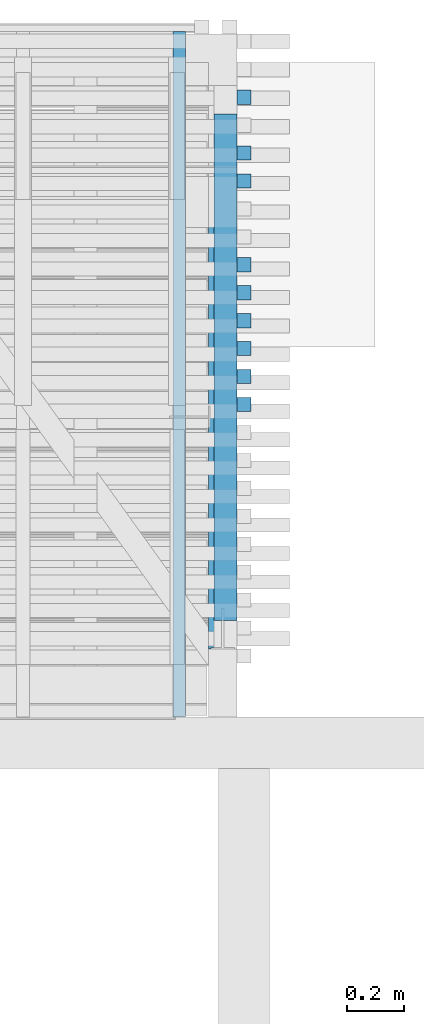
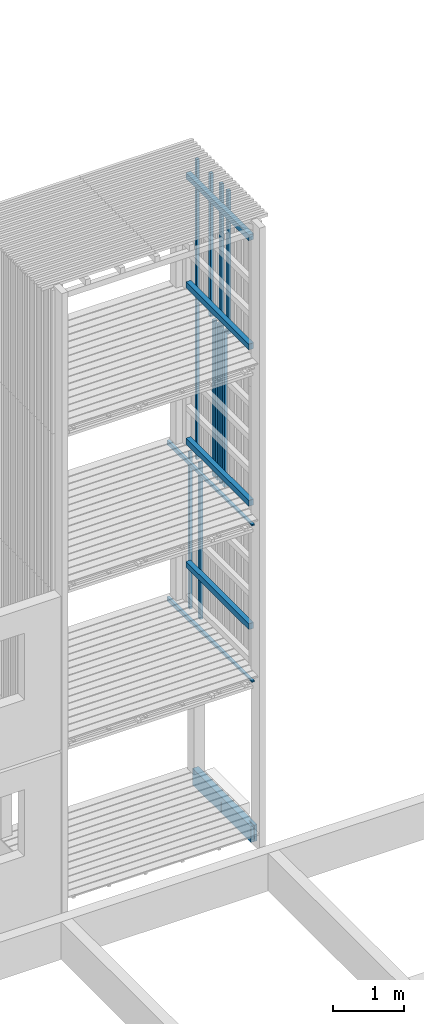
# One storey, part 81 of 182: 18 beams.
"""IFC2X3 building model written with IfcOpenShell, lengths in metres."""

from ifc_helpers import new_model, si_unit, frame, origin, place, context, project, spatial, faceted_brep, element, save


model = new_model("IFC2X3")

# Units and contexts
model_context = context("Model", 3, precision=1e-06, world=origin())
ifc_project = project(units=[si_unit("LENGTHUNIT", "METRE"), si_unit("PLANEANGLEUNIT", "RADIAN")], contexts=[model_context])

# Site, building, storey
site = spatial("IfcSite", under=ifc_project, CompositionType="ELEMENT")
building = spatial("IfcBuilding", under=site, CompositionType="ELEMENT")
storey = spatial("IfcBuildingStorey", under=building, Name="vs", CompositionType="ELEMENT", Elevation=-0.85)

# Beams
placement = place(None, origin())
beam_1_placement = place(placement, frame((26.399999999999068, 12.648714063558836, 2.575000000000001), z_axis=(-1.0, 0.0, 0.0), x_axis=(0.0, 0.0, 1.0)))
element("IfcBeam", 1, at=beam_1_placement, inside=storey, Name="Bardage", context=model_context, shape_type="Brep", body=[
    faceted_brep([(0.0, -0.025000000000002, 0.024999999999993), (0.0, 0.024999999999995, 0.024999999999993), (0.0, 0.024999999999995, -0.025000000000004), (0.0, -0.025000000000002, -0.025000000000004), (2.699961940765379, 0.024999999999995, -0.025000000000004), (2.699961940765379, 0.024999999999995, 0.024999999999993), (2.699961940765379, -0.025000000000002, 0.024999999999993), (2.699961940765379, -0.025000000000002, -0.025000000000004), (0.0, -0.025000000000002, -0.025000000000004), (0.0, 0.024999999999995, -0.025000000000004), (2.699961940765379, 0.024999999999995, -0.025000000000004), (2.699961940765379, -0.025000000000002, -0.025000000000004), (2.699961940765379, 0.024999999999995, -0.025000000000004), (0.0, 0.024999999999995, -0.025000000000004), (0.0, 0.024999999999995, 0.024999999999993), (2.699961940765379, 0.024999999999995, 0.024999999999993), (2.699961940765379, 0.024999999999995, 0.024999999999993), (0.0, 0.024999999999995, 0.024999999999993), (0.0, -0.025000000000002, 0.024999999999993), (2.699961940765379, -0.025000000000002, 0.024999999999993), (2.699961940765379, -0.025000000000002, 0.024999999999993), (0.0, -0.025000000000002, 0.024999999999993), (0.0, -0.025000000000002, -0.025000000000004), (2.699961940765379, -0.025000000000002, -0.025000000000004)], [[[0, 1, 2, 3]], [[4, 5, 6, 7]], [[8, 9, 10, 11]], [[12, 13, 14, 15]], [[16, 17, 18, 19]], [[20, 21, 22, 23]]]),
])
beam_2_placement = place(placement, frame((26.399999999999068, 12.452350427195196, 7.974999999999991), z_axis=(-1.0, 0.0, 0.0), x_axis=(0.0, 0.0, 1.0)))
element("IfcBeam", 2, at=beam_2_placement, inside=storey, Name="Bardage", context=model_context, shape_type="Brep", body=[
    faceted_brep([(2.479999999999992, -0.024999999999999, 0.024999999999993), (2.479999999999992, -0.024999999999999, -0.025000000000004), (2.479999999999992, 0.025000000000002, -0.025000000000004), (2.479999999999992, 0.025000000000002, 0.024999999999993), (0.0, 0.025000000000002, 0.024999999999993), (0.0, -0.024999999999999, 0.024999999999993), (2.479999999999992, -0.024999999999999, 0.024999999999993), (2.479999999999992, 0.025000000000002, 0.024999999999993), (0.0, -0.024999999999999, 0.024999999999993), (0.0, 0.025000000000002, 0.024999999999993), (0.0, 0.025000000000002, -0.025000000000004), (0.0, -0.024999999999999, -0.025000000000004), (0.0, 0.025000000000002, -0.025000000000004), (0.0, 0.025000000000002, 0.024999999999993), (2.479999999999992, 0.025000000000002, 0.024999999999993), (2.479999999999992, 0.025000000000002, -0.025000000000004), (0.0, -0.024999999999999, -0.025000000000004), (0.0, 0.025000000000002, -0.025000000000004), (2.479999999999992, 0.025000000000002, -0.025000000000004), (2.479999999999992, -0.024999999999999, -0.025000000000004), (2.479999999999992, -0.024999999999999, 0.024999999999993), (0.0, -0.024999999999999, 0.024999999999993), (0.0, -0.024999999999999, -0.025000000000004), (2.479999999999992, -0.024999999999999, -0.025000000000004)], [[[0, 1, 2, 3]], [[4, 5, 6, 7]], [[8, 9, 10, 11]], [[12, 13, 14, 15]], [[16, 17, 18, 19]], [[20, 21, 22, 23]]]),
])
beam_3_placement = place(placement, frame((26.334999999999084, 10.8100776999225, 10.114999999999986), z_axis=(0.0, 0.0, 1.0), x_axis=(0.0, 1.0, 0.0)))
element("IfcBeam", 3, at=beam_3_placement, inside=storey, Name="Support bardage", context=model_context, shape_type="Brep", body=[
    faceted_brep([(1.779999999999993, -0.039999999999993, 0.050000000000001), (1.779999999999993, -0.039999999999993, -0.050000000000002), (1.779999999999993, 0.04000000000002, -0.050000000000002), (1.779999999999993, 0.04000000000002, 0.050000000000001), (-4e-15, -0.039999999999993, -0.050000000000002), (1.779999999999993, -0.039999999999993, -0.050000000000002), (1.779999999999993, -0.039999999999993, 0.050000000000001), (-4e-15, -0.039999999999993, 0.050000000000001), (-4e-15, 0.04000000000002, -0.050000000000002), (1.779999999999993, 0.04000000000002, -0.050000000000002), (1.779999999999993, -0.039999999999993, -0.050000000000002), (-4e-15, -0.039999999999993, -0.050000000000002), (-4e-15, 0.04000000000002, 0.050000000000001), (1.779999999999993, 0.04000000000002, 0.050000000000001), (1.779999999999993, 0.04000000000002, -0.050000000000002), (-4e-15, 0.04000000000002, -0.050000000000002), (-4e-15, -0.039999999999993, 0.050000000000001), (1.779999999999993, -0.039999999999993, 0.050000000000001), (1.779999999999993, 0.04000000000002, 0.050000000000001), (-4e-15, 0.04000000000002, 0.050000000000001), (-4e-15, -0.039999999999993, -0.050000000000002), (-4e-15, -0.039999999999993, 0.050000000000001), (-4e-15, 0.04000000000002, 0.050000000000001), (-4e-15, 0.04000000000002, -0.050000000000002)], [[[0, 1, 2, 3]], [[4, 5, 6, 7]], [[8, 9, 10, 11]], [[12, 13, 14, 15]], [[16, 17, 18, 19]], [[20, 21, 22, 23]]]),
])
beam_4_placement = place(placement, frame((26.334999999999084, 10.8100776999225, 5.529999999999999), z_axis=(0.0, 0.0, 1.0), x_axis=(0.0, 1.0, 0.0)))
element("IfcBeam", 4, at=beam_4_placement, inside=storey, Name="Support bardage", context=model_context, shape_type="Brep", body=[
    faceted_brep([(1.779999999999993, -0.039999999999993, 0.05), (1.779999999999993, -0.039999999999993, -0.050000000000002), (1.779999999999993, 0.04000000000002, -0.050000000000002), (1.779999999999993, 0.04000000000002, 0.05), (-4e-15, -0.039999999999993, -0.050000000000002), (1.779999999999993, -0.039999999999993, -0.050000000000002), (1.779999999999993, -0.039999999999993, 0.05), (-4e-15, -0.039999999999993, 0.05), (-4e-15, 0.04000000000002, -0.050000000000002), (1.779999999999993, 0.04000000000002, -0.050000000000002), (1.779999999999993, -0.039999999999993, -0.050000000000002), (-4e-15, -0.039999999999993, -0.050000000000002), (-4e-15, 0.04000000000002, 0.05), (1.779999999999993, 0.04000000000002, 0.05), (1.779999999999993, 0.04000000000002, -0.050000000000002), (-4e-15, 0.04000000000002, -0.050000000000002), (-4e-15, -0.039999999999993, 0.05), (1.779999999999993, -0.039999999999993, 0.05), (1.779999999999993, 0.04000000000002, 0.05), (-4e-15, 0.04000000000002, 0.05), (-4e-15, -0.039999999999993, -0.050000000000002), (-4e-15, -0.039999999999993, 0.05), (-4e-15, 0.04000000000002, 0.05), (-4e-15, 0.04000000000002, -0.050000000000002)], [[[0, 1, 2, 3]], [[4, 5, 6, 7]], [[8, 9, 10, 11]], [[12, 13, 14, 15]], [[16, 17, 18, 19]], [[20, 21, 22, 23]]]),
])
beam_5_placement = place(placement, frame((26.172499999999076, 10.470077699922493, 2.684400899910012), z_axis=(0.0, 0.0, 1.0), x_axis=(0.0, 1.0, 0.0)))
element("IfcBeam", 5, at=beam_5_placement, inside=storey, Name="Calage", context=model_context, shape_type="Brep", body=[
    faceted_brep([(2.410000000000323, -0.022499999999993, -0.035599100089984), (0.0, -0.022499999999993, 0.012600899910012), (0.0, 0.022500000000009, 0.012600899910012), (2.410000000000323, 0.022500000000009, -0.035599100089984), (0.0, 0.022500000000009, 0.035599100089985), (0.0, 0.022500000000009, 0.012600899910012), (0.0, -0.022499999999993, 0.012600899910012), (0.0, -0.022499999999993, 0.035599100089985), (2.410000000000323, 0.022500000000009, -0.035599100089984), (0.0, 0.022500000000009, 0.012600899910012), (0.0, 0.022500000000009, 0.035599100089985), (2.410000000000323, 0.022500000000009, 0.035599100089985), (2.410000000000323, -0.022499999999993, 0.035599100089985), (0.0, -0.022499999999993, 0.035599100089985), (0.0, -0.022499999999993, 0.012600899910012), (2.410000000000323, -0.022499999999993, -0.035599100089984), (2.410000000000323, 0.022500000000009, 0.035599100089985), (0.0, 0.022500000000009, 0.035599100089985), (0.0, -0.022499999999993, 0.035599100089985), (2.410000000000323, -0.022499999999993, 0.035599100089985), (2.410000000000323, 0.022500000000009, -0.035599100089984), (2.410000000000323, 0.022500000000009, 0.035599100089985), (2.410000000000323, -0.022499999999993, 0.035599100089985), (2.410000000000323, -0.022499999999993, -0.035599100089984)], [[[0, 1, 2, 3]], [[4, 5, 6, 7]], [[8, 9, 10, 11]], [[12, 13, 14, 15]], [[16, 17, 18, 19]], [[20, 21, 22, 23]]]),
])
beam_6_placement = place(placement, frame((26.399999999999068, 12.452350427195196, 5.274999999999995), z_axis=(-1.0, 0.0, 0.0), x_axis=(0.0, 0.0, 1.0)))
element("IfcBeam", 6, at=beam_6_placement, inside=storey, Name="Bardage", context=model_context, shape_type="Brep", body=[
    faceted_brep([(1e-15, -0.024999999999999, 0.024999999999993), (1e-15, 0.025000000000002, 0.024999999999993), (1e-15, 0.025000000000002, -0.025000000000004), (1e-15, -0.024999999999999, -0.025000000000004), (2.699999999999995, -0.024999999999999, -0.025000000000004), (2.699999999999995, 0.025000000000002, -0.025000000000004), (2.699999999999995, 0.025000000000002, 0.024999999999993), (2.699999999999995, -0.024999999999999, 0.024999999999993), (1e-15, -0.024999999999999, 0.024999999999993), (1e-15, -0.024999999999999, -0.025000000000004), (2.699999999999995, -0.024999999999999, -0.025000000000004), (2.699999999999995, -0.024999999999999, 0.024999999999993), (2.699999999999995, -0.024999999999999, -0.025000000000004), (1e-15, -0.024999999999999, -0.025000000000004), (1e-15, 0.025000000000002, -0.025000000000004), (2.699999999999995, 0.025000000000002, -0.025000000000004), (2.699999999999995, 0.025000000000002, -0.025000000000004), (1e-15, 0.025000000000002, -0.025000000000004), (1e-15, 0.025000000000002, 0.024999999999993), (2.699999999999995, 0.025000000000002, 0.024999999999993), (2.699999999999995, 0.025000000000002, 0.024999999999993), (1e-15, 0.025000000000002, 0.024999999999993), (1e-15, -0.024999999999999, 0.024999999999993), (2.699999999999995, -0.024999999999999, 0.024999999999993)], [[[0, 1, 2, 3]], [[4, 5, 6, 7]], [[8, 9, 10, 11]], [[12, 13, 14, 15]], [[16, 17, 18, 19]], [[20, 21, 22, 23]]]),
])
beam_7_placement = place(placement, frame((26.399999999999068, 11.765077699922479, 7.974999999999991), z_axis=(-1.0, 0.0, 0.0), x_axis=(0.0, 1e-15, 1.0)))
element("IfcBeam", 7, at=beam_7_placement, inside=storey, Name="Bardage", context=model_context, shape_type="Brep", body=[
    faceted_brep([(2.479999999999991, -0.025000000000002, 0.024999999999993), (2.479999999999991, -0.025000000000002, -0.025000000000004), (2.479999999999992, 0.024999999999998, -0.025000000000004), (2.479999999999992, 0.024999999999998, 0.024999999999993), (0.0, 0.025000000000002, 0.024999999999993), (0.0, -0.024999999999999, 0.024999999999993), (2.479999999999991, -0.025000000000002, 0.024999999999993), (2.479999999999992, 0.024999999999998, 0.024999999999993), (0.0, -0.024999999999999, 0.024999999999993), (0.0, 0.025000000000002, 0.024999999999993), (0.0, 0.025000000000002, -0.025000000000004), (0.0, -0.024999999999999, -0.025000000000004), (0.0, 0.025000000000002, -0.025000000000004), (0.0, 0.025000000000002, 0.024999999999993), (2.479999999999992, 0.024999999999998, 0.024999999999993), (2.479999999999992, 0.024999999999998, -0.025000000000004), (0.0, -0.024999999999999, -0.025000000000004), (0.0, 0.025000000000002, -0.025000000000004), (2.479999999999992, 0.024999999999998, -0.025000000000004), (2.479999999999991, -0.025000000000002, -0.025000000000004), (2.479999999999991, -0.025000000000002, 0.024999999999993), (0.0, -0.024999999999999, 0.024999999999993), (0.0, -0.024999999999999, -0.025000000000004), (2.479999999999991, -0.025000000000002, -0.025000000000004)], [[[0, 1, 2, 3]], [[4, 5, 6, 7]], [[8, 9, 10, 11]], [[12, 13, 14, 15]], [[16, 17, 18, 19]], [[20, 21, 22, 23]]]),
])
beam_8_placement = place(placement, frame((26.399999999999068, 11.666895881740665, 5.274999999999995), z_axis=(-1.0, 0.0, 0.0), x_axis=(0.0, 0.0, 1.0)))
element("IfcBeam", 8, at=beam_8_placement, inside=storey, Name="Bardage", context=model_context, shape_type="Brep", body=[
    faceted_brep([(1e-15, -0.025000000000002, 0.024999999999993), (1e-15, 0.024999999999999, 0.024999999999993), (1e-15, 0.024999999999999, -0.025000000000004), (1e-15, -0.025000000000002, -0.025000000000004), (2.699999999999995, -0.025000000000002, -0.025000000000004), (2.699999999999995, 0.024999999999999, -0.025000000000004), (2.699999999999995, 0.024999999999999, 0.024999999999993), (2.699999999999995, -0.025000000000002, 0.024999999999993), (1e-15, -0.025000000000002, 0.024999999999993), (1e-15, -0.025000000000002, -0.025000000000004), (2.699999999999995, -0.025000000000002, -0.025000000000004), (2.699999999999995, -0.025000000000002, 0.024999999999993), (2.699999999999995, -0.025000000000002, -0.025000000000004), (1e-15, -0.025000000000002, -0.025000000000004), (1e-15, 0.024999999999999, -0.025000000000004), (2.699999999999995, 0.024999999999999, -0.025000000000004), (2.699999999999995, 0.024999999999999, -0.025000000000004), (1e-15, 0.024999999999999, -0.025000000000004), (1e-15, 0.024999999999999, 0.024999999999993), (2.699999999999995, 0.024999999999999, 0.024999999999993), (2.699999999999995, 0.024999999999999, 0.024999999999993), (1e-15, 0.024999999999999, 0.024999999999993), (1e-15, -0.025000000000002, 0.024999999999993), (2.699999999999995, -0.025000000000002, 0.024999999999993)], [[[0, 1, 2, 3]], [[4, 5, 6, 7]], [[8, 9, 10, 11]], [[12, 13, 14, 15]], [[16, 17, 18, 19]], [[20, 21, 22, 23]]]),
])
beam_9_placement = place(placement, frame((26.399999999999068, 12.354168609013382, 2.575000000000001), z_axis=(-1.0, 0.0, 0.0), x_axis=(0.0, 0.0, 1.0)))
element("IfcBeam", 9, at=beam_9_placement, inside=storey, Name="Bardage", context=model_context, shape_type="Brep", body=[
    faceted_brep([(0.0, -0.024999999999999, 0.024999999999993), (0.0, 0.024999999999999, 0.024999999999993), (0.0, 0.024999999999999, -0.025000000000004), (0.0, -0.024999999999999, -0.025000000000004), (2.699961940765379, 0.024999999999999, -0.025000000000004), (2.699961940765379, 0.024999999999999, 0.024999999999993), (2.699961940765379, -0.024999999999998, 0.024999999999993), (2.699961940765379, -0.024999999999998, -0.025000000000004), (0.0, -0.024999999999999, -0.025000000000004), (0.0, 0.024999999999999, -0.025000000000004), (2.699961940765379, 0.024999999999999, -0.025000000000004), (2.699961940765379, -0.024999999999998, -0.025000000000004), (2.699961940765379, 0.024999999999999, -0.025000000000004), (0.0, 0.024999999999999, -0.025000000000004), (0.0, 0.024999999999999, 0.024999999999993), (2.699961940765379, 0.024999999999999, 0.024999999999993), (2.699961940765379, 0.024999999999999, 0.024999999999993), (0.0, 0.024999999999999, 0.024999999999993), (0.0, -0.024999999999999, 0.024999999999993), (2.699961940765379, -0.024999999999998, 0.024999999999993), (2.699961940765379, -0.024999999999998, 0.024999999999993), (0.0, -0.024999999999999, 0.024999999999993), (0.0, -0.024999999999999, -0.025000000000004), (2.699961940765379, -0.024999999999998, -0.025000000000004)], [[[0, 1, 2, 3]], [[4, 5, 6, 7]], [[8, 9, 10, 11]], [[12, 13, 14, 15]], [[16, 17, 18, 19]], [[20, 21, 22, 23]]]),
])
beam_10_placement = place(placement, frame((26.324999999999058, 10.71007769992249, -0.119999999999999), z_axis=(0.0, 0.0, 1.0), x_axis=(0.0, 1.0, 0.0)))
element("IfcBeam", 10, at=beam_10_placement, inside=storey, Name="Sommier", context=model_context, shape_type="Brep", body=[
    faceted_brep([(1.660000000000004, 0.049999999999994, 0.14), (1.660000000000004, -0.050000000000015, 0.14), (1.660000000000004, -0.050000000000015, -0.14), (1.660000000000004, 0.049999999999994, -0.14), (0.142000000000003, -0.004000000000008, -0.14), (0.142000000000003, 0.003999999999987, -0.14), (0.005000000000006, 0.003999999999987, -0.14), (0.005000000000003, 0.040999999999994, -0.14), (4e-15, 0.040999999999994, -0.14), (0.0, 0.049999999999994, -0.14), (1.660000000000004, 0.049999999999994, -0.14), (1.660000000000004, -0.050000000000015, -0.14), (0.0, -0.050000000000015, -0.14), (4e-15, -0.041000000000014, -0.14), (0.005000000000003, -0.041000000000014, -0.14), (0.005000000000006, -0.004000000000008, -0.14), (1.660000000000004, 0.049999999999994, 0.14), (1.660000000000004, 0.049999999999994, -0.14), (0.0, 0.049999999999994, -0.14), (0.0, 0.049999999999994, 0.14), (0.852999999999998, 0.049999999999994, -0.123600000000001), (0.852999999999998, 0.049999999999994, 0.051399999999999), (0.776999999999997, 0.049999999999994, 0.051399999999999), (0.776999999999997, 0.049999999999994, -0.123600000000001), (0.0, -0.050000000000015, 0.14), (4e-15, -0.041000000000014, 0.14), (4e-15, -0.041000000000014, -0.14), (0.0, -0.050000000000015, -0.14), (0.852999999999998, 0.044999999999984, -0.123600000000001), (0.776999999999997, 0.044999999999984, -0.123600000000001), (0.776999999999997, 0.044999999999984, 0.051399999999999), (0.852999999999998, 0.044999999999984, 0.051399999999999), (0.852999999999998, 0.044999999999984, 0.051399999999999), (0.776999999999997, 0.044999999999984, 0.051399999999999), (0.776999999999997, 0.049999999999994, 0.051399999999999), (0.852999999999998, 0.049999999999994, 0.051399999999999), (0.776999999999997, 0.044999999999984, -0.123600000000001), (0.852999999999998, 0.044999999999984, -0.123600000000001), (0.852999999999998, 0.049999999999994, -0.123600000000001), (0.776999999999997, 0.049999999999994, -0.123600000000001), (0.852999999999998, 0.049999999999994, 0.051399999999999), (0.852999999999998, 0.049999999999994, -0.123600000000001), (0.852999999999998, 0.044999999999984, -0.123600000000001), (0.852999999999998, 0.044999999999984, 0.051399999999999), (0.776999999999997, 0.044999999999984, 0.051399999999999), (0.776999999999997, 0.044999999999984, -0.123600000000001), (0.776999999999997, 0.049999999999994, -0.123600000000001), (0.776999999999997, 0.049999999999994, 0.051399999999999), (0.0, -0.050000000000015, -0.14), (1.660000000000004, -0.050000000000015, -0.14), (1.660000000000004, -0.050000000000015, 0.14), (0.0, -0.050000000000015, 0.14), (0.0, 0.049999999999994, 0.14), (0.0, 0.049999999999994, -0.14), (4e-15, 0.040999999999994, -0.14), (4e-15, 0.040999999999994, 0.14), (0.0, -0.050000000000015, 0.14), (1.660000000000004, -0.050000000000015, 0.14), (1.660000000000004, 0.049999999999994, 0.14), (0.0, 0.049999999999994, 0.14), (4e-15, 0.040999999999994, 0.14), (0.005000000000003, 0.040999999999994, 0.14), (0.005000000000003, 0.003999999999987, 0.14), (0.142000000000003, 0.003999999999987, 0.140000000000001), (0.142000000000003, -0.004000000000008, 0.140000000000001), (0.005000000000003, -0.004000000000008, 0.14), (0.005000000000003, -0.041000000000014, 0.14), (4e-15, -0.041000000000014, 0.14), (0.142000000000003, 0.003999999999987, -0.14), (0.142000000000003, -0.004000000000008, -0.14), (0.142000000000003, -0.004000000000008, 0.140000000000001), (0.142000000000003, 0.003999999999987, 0.140000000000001), (0.005000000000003, -0.004000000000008, 0.14), (0.142000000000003, -0.004000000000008, 0.140000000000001), (0.142000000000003, -0.004000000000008, -0.14), (0.005000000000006, -0.004000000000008, -0.14), (0.005000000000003, -0.004000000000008, 0.14), (0.005000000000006, -0.004000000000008, -0.14), (0.005000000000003, -0.041000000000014, -0.14), (0.005000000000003, -0.041000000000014, 0.14), (0.005000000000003, -0.041000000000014, 0.14), (0.005000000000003, -0.041000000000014, -0.14), (4e-15, -0.041000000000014, -0.14), (4e-15, -0.041000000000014, 0.14), (4e-15, 0.040999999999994, 0.14), (4e-15, 0.040999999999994, -0.14), (0.005000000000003, 0.040999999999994, -0.14), (0.005000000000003, 0.040999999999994, 0.14), (0.005000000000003, 0.040999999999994, 0.14), (0.005000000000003, 0.040999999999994, -0.14), (0.005000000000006, 0.003999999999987, -0.14), (0.005000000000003, 0.003999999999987, 0.14), (0.142000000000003, 0.003999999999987, 0.140000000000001), (0.005000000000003, 0.003999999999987, 0.14), (0.005000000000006, 0.003999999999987, -0.14), (0.142000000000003, 0.003999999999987, -0.14)], [[[0, 1, 2, 3]], [[4, 5, 6, 7, 8, 9, 10, 11, 12, 13, 14, 15]], [[16, 17, 18, 19], [20, 21, 22, 23]], [[24, 25, 26, 27]], [[28, 29, 30, 31]], [[32, 33, 34, 35]], [[36, 37, 38, 39]], [[40, 41, 42, 43]], [[44, 45, 46, 47]], [[48, 49, 50, 51]], [[52, 53, 54, 55]], [[56, 57, 58, 59, 60, 61, 62, 63, 64, 65, 66, 67]], [[68, 69, 70, 71]], [[72, 73, 74, 75]], [[76, 77, 78, 79]], [[80, 81, 82, 83]], [[84, 85, 86, 87]], [[88, 89, 90, 91]], [[92, 93, 94, 95]]]),
])
beam_11_placement = place(placement, frame((26.399999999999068, 12.059623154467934, 7.974999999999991), z_axis=(-1.0, 0.0, 0.0), x_axis=(0.0, 0.0, 1.0)))
element("IfcBeam", 11, at=beam_11_placement, inside=storey, Name="Bardage", context=model_context, shape_type="Brep", body=[
    faceted_brep([(2.479999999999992, -0.025000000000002, 0.024999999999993), (2.479999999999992, -0.025000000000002, -0.025000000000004), (2.479999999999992, 0.024999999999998, -0.025000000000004), (2.479999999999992, 0.024999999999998, 0.024999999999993), (0.0, 0.024999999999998, 0.024999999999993), (0.0, -0.025000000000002, 0.024999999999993), (2.479999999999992, -0.025000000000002, 0.024999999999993), (2.479999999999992, 0.024999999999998, 0.024999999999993), (0.0, -0.025000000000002, 0.024999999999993), (0.0, 0.024999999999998, 0.024999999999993), (0.0, 0.024999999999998, -0.025000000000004), (0.0, -0.025000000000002, -0.025000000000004), (0.0, 0.024999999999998, -0.025000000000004), (0.0, 0.024999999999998, 0.024999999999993), (2.479999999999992, 0.024999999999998, 0.024999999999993), (2.479999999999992, 0.024999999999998, -0.025000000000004), (0.0, -0.025000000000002, -0.025000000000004), (0.0, 0.024999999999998, -0.025000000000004), (2.479999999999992, 0.024999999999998, -0.025000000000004), (2.479999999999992, -0.025000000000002, -0.025000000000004), (2.479999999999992, -0.025000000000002, 0.024999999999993), (0.0, -0.025000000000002, 0.024999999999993), (0.0, -0.025000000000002, -0.025000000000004), (2.479999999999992, -0.025000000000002, -0.025000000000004)], [[[0, 1, 2, 3]], [[4, 5, 6, 7]], [[8, 9, 10, 11]], [[12, 13, 14, 15]], [[16, 17, 18, 19]], [[20, 21, 22, 23]]]),
])
beam_12_placement = place(placement, frame((26.334999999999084, 10.8100776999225, 3.401250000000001), z_axis=(0.0, 0.0, 1.0), x_axis=(0.0, 1.0, 0.0)))
element("IfcBeam", 12, at=beam_12_placement, inside=storey, Name="Support bardage", context=model_context, shape_type="Brep", body=[
    faceted_brep([(1.779999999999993, -0.039999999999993, 0.05), (1.779999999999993, -0.039999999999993, -0.050000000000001), (1.779999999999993, 0.04000000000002, -0.050000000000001), (1.779999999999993, 0.04000000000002, 0.05), (-4e-15, -0.039999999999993, -0.050000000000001), (1.779999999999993, -0.039999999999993, -0.050000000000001), (1.779999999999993, -0.039999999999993, 0.05), (-4e-15, -0.039999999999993, 0.05), (-4e-15, 0.04000000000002, -0.050000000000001), (1.779999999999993, 0.04000000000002, -0.050000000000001), (1.779999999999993, -0.039999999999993, -0.050000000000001), (-4e-15, -0.039999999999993, -0.050000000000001), (-4e-15, 0.04000000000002, 0.05), (1.779999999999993, 0.04000000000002, 0.05), (1.779999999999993, 0.04000000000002, -0.050000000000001), (-4e-15, 0.04000000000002, -0.050000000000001), (-4e-15, -0.039999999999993, 0.05), (1.779999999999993, -0.039999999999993, 0.05), (1.779999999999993, 0.04000000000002, 0.05), (-4e-15, 0.04000000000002, 0.05), (-4e-15, -0.039999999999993, -0.050000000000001), (-4e-15, -0.039999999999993, 0.05), (-4e-15, 0.04000000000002, 0.05), (-4e-15, 0.04000000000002, -0.050000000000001)], [[[0, 1, 2, 3]], [[4, 5, 6, 7]], [[8, 9, 10, 11]], [[12, 13, 14, 15]], [[16, 17, 18, 19]], [[20, 21, 22, 23]]]),
])
beam_13_placement = place(placement, frame((26.399999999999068, 11.568714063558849, 7.974999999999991), z_axis=(-1.0, 0.0, 0.0), x_axis=(0.0, 0.0, 1.0)))
element("IfcBeam", 13, at=beam_13_placement, inside=storey, Name="Bardage", context=model_context, shape_type="Brep", body=[
    faceted_brep([(2.479999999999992, -0.024999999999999, 0.024999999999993), (2.479999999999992, -0.024999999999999, -0.025000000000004), (2.479999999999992, 0.024999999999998, -0.025000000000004), (2.479999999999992, 0.024999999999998, 0.024999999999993), (0.0, 0.024999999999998, 0.024999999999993), (0.0, -0.024999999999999, 0.024999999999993), (2.479999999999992, -0.024999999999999, 0.024999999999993), (2.479999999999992, 0.024999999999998, 0.024999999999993), (0.0, -0.024999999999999, 0.024999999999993), (0.0, 0.024999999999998, 0.024999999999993), (0.0, 0.024999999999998, -0.025000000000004), (0.0, -0.024999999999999, -0.025000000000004), (0.0, 0.024999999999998, -0.025000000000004), (0.0, 0.024999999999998, 0.024999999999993), (2.479999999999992, 0.024999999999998, 0.024999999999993), (2.479999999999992, 0.024999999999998, -0.025000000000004), (0.0, -0.024999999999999, -0.025000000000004), (0.0, 0.024999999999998, -0.025000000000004), (2.479999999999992, 0.024999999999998, -0.025000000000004), (2.479999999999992, -0.024999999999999, -0.025000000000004), (2.479999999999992, -0.024999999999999, 0.024999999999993), (0.0, -0.024999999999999, 0.024999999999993), (0.0, -0.024999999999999, -0.025000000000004), (2.479999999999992, -0.024999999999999, -0.025000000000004)], [[[0, 1, 2, 3]], [[4, 5, 6, 7]], [[8, 9, 10, 11]], [[12, 13, 14, 15]], [[16, 17, 18, 19]], [[20, 21, 22, 23]]]),
])
beam_14_placement = place(placement, frame((26.399999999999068, 11.863259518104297, 5.274999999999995), z_axis=(-1.0, 0.0, 0.0), x_axis=(0.0, 0.0, 1.0)))
element("IfcBeam", 14, at=beam_14_placement, inside=storey, Name="Bardage", context=model_context, shape_type="Brep", body=[
    faceted_brep([(1e-15, -0.024999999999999, 0.024999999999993), (1e-15, 0.024999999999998, 0.024999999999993), (1e-15, 0.024999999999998, -0.025000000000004), (1e-15, -0.024999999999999, -0.025000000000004), (2.699999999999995, -0.024999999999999, -0.025000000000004), (2.699999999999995, 0.024999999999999, -0.025000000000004), (2.699999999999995, 0.024999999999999, 0.024999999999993), (2.699999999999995, -0.024999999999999, 0.024999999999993), (1e-15, -0.024999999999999, 0.024999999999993), (1e-15, -0.024999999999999, -0.025000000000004), (2.699999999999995, -0.024999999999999, -0.025000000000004), (2.699999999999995, -0.024999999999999, 0.024999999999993), (2.699999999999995, -0.024999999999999, -0.025000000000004), (1e-15, -0.024999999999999, -0.025000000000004), (1e-15, 0.024999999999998, -0.025000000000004), (2.699999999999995, 0.024999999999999, -0.025000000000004), (2.699999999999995, 0.024999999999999, -0.025000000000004), (1e-15, 0.024999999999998, -0.025000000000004), (1e-15, 0.024999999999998, 0.024999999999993), (2.699999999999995, 0.024999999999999, 0.024999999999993), (2.699999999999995, 0.024999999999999, 0.024999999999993), (1e-15, 0.024999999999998, 0.024999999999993), (1e-15, -0.024999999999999, 0.024999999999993), (2.699999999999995, -0.024999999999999, 0.024999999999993)], [[[0, 1, 2, 3]], [[4, 5, 6, 7]], [[8, 9, 10, 11]], [[12, 13, 14, 15]], [[16, 17, 18, 19]], [[20, 21, 22, 23]]]),
])
beam_15_placement = place(placement, frame((26.172499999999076, 10.470077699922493, 5.384400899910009), z_axis=(0.0, 0.0, 1.0), x_axis=(0.0, 1.0, 0.0)))
element("IfcBeam", 15, at=beam_15_placement, inside=storey, Name="Calage", context=model_context, shape_type="Brep", body=[
    faceted_brep([(2.410000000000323, -0.022499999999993, -0.035599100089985), (0.0, -0.022499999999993, 0.012600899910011), (0.0, 0.022500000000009, 0.012600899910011), (2.410000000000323, 0.022500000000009, -0.035599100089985), (0.0, 0.022500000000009, 0.035599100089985), (0.0, 0.022500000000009, 0.012600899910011), (0.0, -0.022499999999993, 0.012600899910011), (0.0, -0.022499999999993, 0.035599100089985), (2.410000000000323, 0.022500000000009, -0.035599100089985), (0.0, 0.022500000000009, 0.012600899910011), (0.0, 0.022500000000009, 0.035599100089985), (2.410000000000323, 0.022500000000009, 0.035599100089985), (2.410000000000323, -0.022499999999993, 0.035599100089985), (0.0, -0.022499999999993, 0.035599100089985), (0.0, -0.022499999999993, 0.012600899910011), (2.410000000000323, -0.022499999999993, -0.035599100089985), (2.410000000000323, 0.022500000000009, 0.035599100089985), (0.0, 0.022500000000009, 0.035599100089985), (0.0, -0.022499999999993, 0.035599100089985), (2.410000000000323, -0.022499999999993, 0.035599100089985), (2.410000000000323, 0.022500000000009, -0.035599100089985), (2.410000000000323, 0.022500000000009, 0.035599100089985), (2.410000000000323, -0.022499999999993, 0.035599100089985), (2.410000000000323, -0.022499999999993, -0.035599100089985)], [[[0, 1, 2, 3]], [[4, 5, 6, 7]], [[8, 9, 10, 11]], [[12, 13, 14, 15]], [[16, 17, 18, 19]], [[20, 21, 22, 23]]]),
])
beam_16_placement = place(placement, frame((26.399999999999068, 11.961441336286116, 5.274999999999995), z_axis=(-1.0, 0.0, 0.0), x_axis=(0.0, 0.0, 1.0)))
element("IfcBeam", 16, at=beam_16_placement, inside=storey, Name="Bardage", context=model_context, shape_type="Brep", body=[
    faceted_brep([(1e-15, -0.025000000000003, 0.024999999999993), (1e-15, 0.024999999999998, 0.024999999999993), (1e-15, 0.024999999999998, -0.025000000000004), (1e-15, -0.025000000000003, -0.025000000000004), (2.699999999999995, -0.025000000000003, -0.025000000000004), (2.699999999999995, 0.024999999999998, -0.025000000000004), (2.699999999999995, 0.024999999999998, 0.024999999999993), (2.699999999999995, -0.025000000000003, 0.024999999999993), (1e-15, -0.025000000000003, 0.024999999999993), (1e-15, -0.025000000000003, -0.025000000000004), (2.699999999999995, -0.025000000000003, -0.025000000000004), (2.699999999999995, -0.025000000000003, 0.024999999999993), (2.699999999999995, -0.025000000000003, -0.025000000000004), (1e-15, -0.025000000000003, -0.025000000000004), (1e-15, 0.024999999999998, -0.025000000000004), (2.699999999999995, 0.024999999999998, -0.025000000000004), (2.699999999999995, 0.024999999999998, -0.025000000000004), (1e-15, 0.024999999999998, -0.025000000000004), (1e-15, 0.024999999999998, 0.024999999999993), (2.699999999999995, 0.024999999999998, 0.024999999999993), (2.699999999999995, 0.024999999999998, 0.024999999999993), (1e-15, 0.024999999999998, 0.024999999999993), (1e-15, -0.025000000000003, 0.024999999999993), (2.699999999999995, -0.025000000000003, 0.024999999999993)], [[[0, 1, 2, 3]], [[4, 5, 6, 7]], [[8, 9, 10, 11]], [[12, 13, 14, 15]], [[16, 17, 18, 19]], [[20, 21, 22, 23]]]),
])
beam_17_placement = place(placement, frame((26.399999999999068, 11.765077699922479, 5.274999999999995), z_axis=(-1.0, 0.0, 0.0), x_axis=(0.0, 1e-15, 1.0)))
element("IfcBeam", 17, at=beam_17_placement, inside=storey, Name="Bardage", context=model_context, shape_type="Brep", body=[
    faceted_brep([(1e-15, -0.024999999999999, 0.024999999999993), (1e-15, 0.025000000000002, 0.024999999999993), (1e-15, 0.025000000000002, -0.025000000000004), (1e-15, -0.024999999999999, -0.025000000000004), (2.699999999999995, -0.025000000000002, -0.025000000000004), (2.699999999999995, 0.024999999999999, -0.025000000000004), (2.699999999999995, 0.024999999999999, 0.024999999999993), (2.699999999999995, -0.025000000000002, 0.024999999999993), (1e-15, -0.024999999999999, 0.024999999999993), (1e-15, -0.024999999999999, -0.025000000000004), (2.699999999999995, -0.025000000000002, -0.025000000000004), (2.699999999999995, -0.025000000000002, 0.024999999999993), (2.699999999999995, -0.025000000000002, -0.025000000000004), (1e-15, -0.024999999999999, -0.025000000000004), (1e-15, 0.025000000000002, -0.025000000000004), (2.699999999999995, 0.024999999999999, -0.025000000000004), (2.699999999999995, 0.024999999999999, -0.025000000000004), (1e-15, 0.025000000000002, -0.025000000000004), (1e-15, 0.025000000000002, 0.024999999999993), (2.699999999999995, 0.024999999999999, 0.024999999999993), (2.699999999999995, 0.024999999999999, 0.024999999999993), (1e-15, 0.025000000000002, 0.024999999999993), (1e-15, -0.024999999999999, 0.024999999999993), (2.699999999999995, -0.025000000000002, 0.024999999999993)], [[[0, 1, 2, 3]], [[4, 5, 6, 7]], [[8, 9, 10, 11]], [[12, 13, 14, 15]], [[16, 17, 18, 19]], [[20, 21, 22, 23]]]),
])
beam_18_placement = place(placement, frame((26.334999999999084, 10.8100776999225, 8.229999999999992), z_axis=(0.0, 0.0, 1.0), x_axis=(0.0, 1.0, 0.0)))
element("IfcBeam", 18, at=beam_18_placement, inside=storey, Name="Support bardage", context=model_context, shape_type="Brep", body=[
    faceted_brep([(1.779999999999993, -0.039999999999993, 0.050000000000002), (1.779999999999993, -0.039999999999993, -0.05), (1.779999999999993, 0.04000000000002, -0.05), (1.779999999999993, 0.04000000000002, 0.050000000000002), (-4e-15, -0.039999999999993, -0.05), (1.779999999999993, -0.039999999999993, -0.05), (1.779999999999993, -0.039999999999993, 0.050000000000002), (-4e-15, -0.039999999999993, 0.050000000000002), (-4e-15, 0.04000000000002, -0.05), (1.779999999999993, 0.04000000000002, -0.05), (1.779999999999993, -0.039999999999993, -0.05), (-4e-15, -0.039999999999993, -0.05), (-4e-15, 0.04000000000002, 0.050000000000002), (1.779999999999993, 0.04000000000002, 0.050000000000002), (1.779999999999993, 0.04000000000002, -0.05), (-4e-15, 0.04000000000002, -0.05), (-4e-15, -0.039999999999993, 0.050000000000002), (1.779999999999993, -0.039999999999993, 0.050000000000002), (1.779999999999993, 0.04000000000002, 0.050000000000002), (-4e-15, 0.04000000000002, 0.050000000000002), (-4e-15, -0.039999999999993, -0.05), (-4e-15, -0.039999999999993, 0.050000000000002), (-4e-15, 0.04000000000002, 0.050000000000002), (-4e-15, 0.04000000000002, -0.05)], [[[0, 1, 2, 3]], [[4, 5, 6, 7]], [[8, 9, 10, 11]], [[12, 13, 14, 15]], [[16, 17, 18, 19]], [[20, 21, 22, 23]]]),
])

save(model, "model.ifc")
